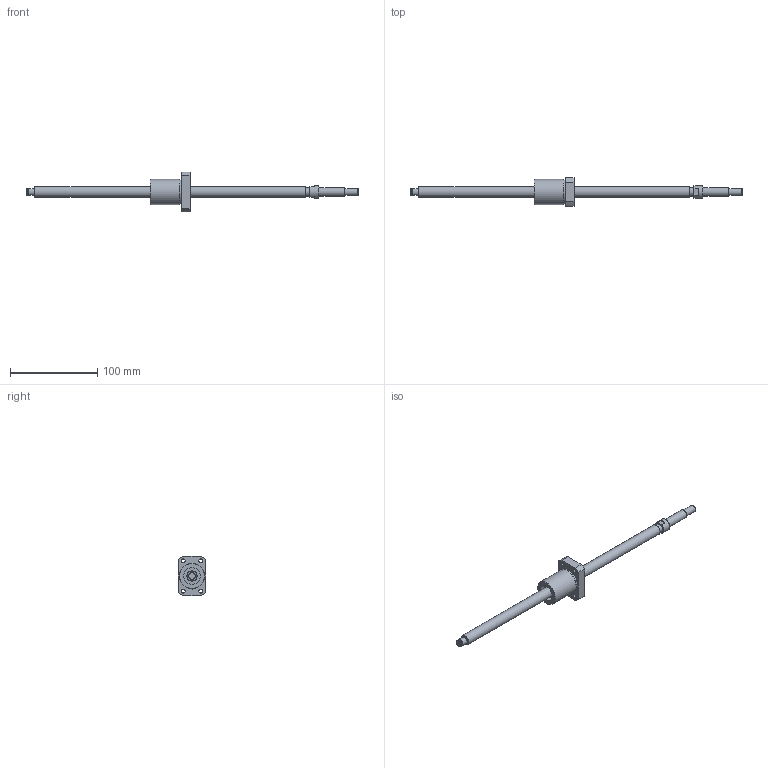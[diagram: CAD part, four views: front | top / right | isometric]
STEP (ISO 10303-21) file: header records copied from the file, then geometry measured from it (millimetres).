
FILE_DESCRIPTION(/* description */ ('STEP AP203'),/* implementation_level */ '2;1');
FILE_NAME(/* name */ 'BNK1208-2.6RRG2+380LC7Y(1780)',/* time_stamp */ '2024-07-09T09:11:14+02:00',/* author */ ('License CC BY-ND 4.0'),/* organization */ ('CADENAS'),/* preprocessor_version */ 'ST-DEVELOPER v19.3',/* originating_system */ 'PARTsolutions',/* authorisation */ ' ');
FILE_SCHEMA (('CONFIG_CONTROL_DESIGN'));
Length unit declared in the file: millimetre
Products named in the file (3): BNK1208-2.6RRG2+380LC7Y(1780); BNK 1208-2.6RRG2+380LC7Y Shaft; BNK 1208-2.6RRG2+380LC7YRR0 Nut
Assembly tree (2 placements, depth 2):
  BNK1208-2.6RRG2+380LC7Y(1780)
    BNK 1208-2.6RRG2+380LC7Y Shaft
    BNK 1208-2.6RRG2+380LC7YRR0 Nut
Bounding box: 380 x 32 x 45 mm (x, y, z)
Volume: 69463.8 mm3; surface area: 24384.5 mm2
Topology: 2 solids, 2 shells, 76 faces, 158 edges, 101 vertices
Faces by surface type: plane 29, cylinder 29, cone 16, torus 2
Full cylindrical faces by diameter (mm): 3 x3, 4.5 x4, 4.917 x1, 7.6 x1, 8 x7, 10 x2, 12 x2, 14 x1, 19 x2, 28.4 x1, 29 x1
Entity records: 1972 total; most frequent: CARTESIAN_POINT 385, DIRECTION 332, ORIENTED_EDGE 236, AXIS2_PLACEMENT_3D 154, FACE_BOUND 140, EDGE_LOOP 139, EDGE_CURVE 118, VERTEX_POINT 98
